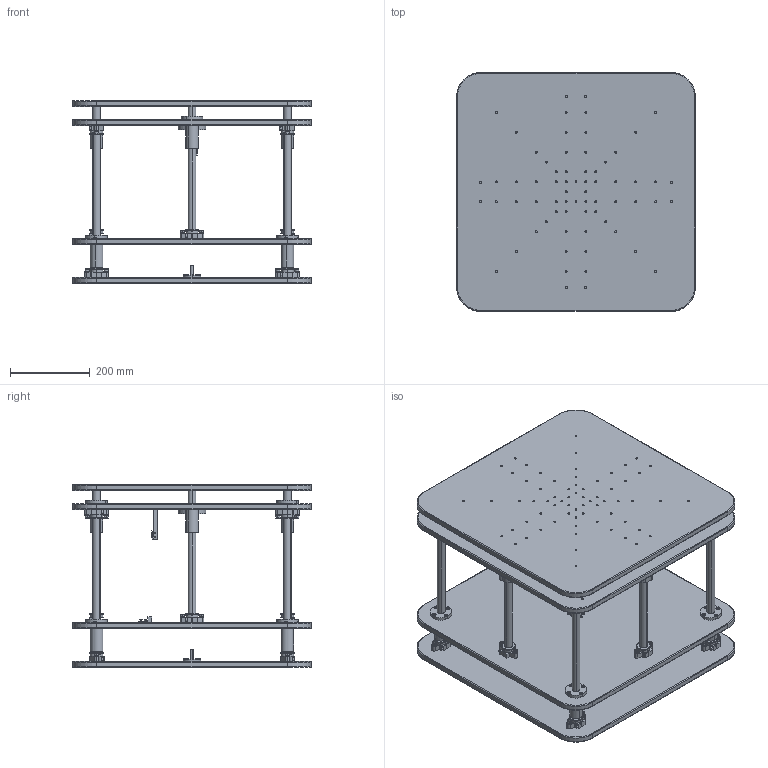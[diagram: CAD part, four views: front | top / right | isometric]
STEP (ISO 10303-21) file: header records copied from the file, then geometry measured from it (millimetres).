
FILE_DESCRIPTION (( 'STEP AP203' ), '1' );
FILE_NAME ('7SVA2200A熬厒汔蔥怢.STEP', '2017-11-14T00:57:58', ( '' ), ( '' ), 'SwSTEP 2.0', 'SolidWorks 2014', '' );
FILE_SCHEMA (( 'CONFIG_CONTROL_DESIGN' ));
Length unit declared in the file: millimetre
Products named in the file (1): 7SVA2200A熬厒汔蔥怢
Bounding box: 600 x 600 x 460 mm (x, y, z)
Surface area: 3333308.7 mm2 (no closed solid volume)
Topology: 0 solids, 182 shells, 1424 faces, 4426 edges, 3129 vertices
Faces by surface type: cylinder 773, plane 487, torus 122, cone 38, sphere 4
Entity records: 50370 total; most frequent: DIRECTION 9412, CARTESIAN_POINT 9254, ORIENTED_EDGE 7064, EDGE_CURVE 4392, AXIS2_PLACEMENT_3D 3663, VERTEX_POINT 3129, CIRCLE 2238, LINE 2086
